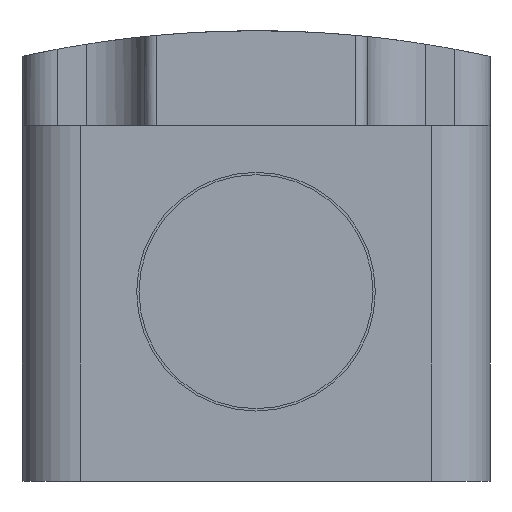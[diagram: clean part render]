
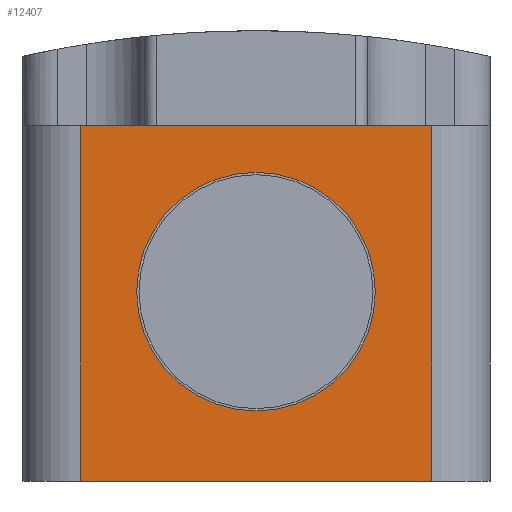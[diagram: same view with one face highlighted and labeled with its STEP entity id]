
A CAD part, front view. The second image highlights one B-rep face of the part: STEP entity #12407.
In plain terms, the highlighted planar face has unit normal (0, -1, 0).
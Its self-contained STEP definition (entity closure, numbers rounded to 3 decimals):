
#83 = VERTEX_POINT ( 'NONE', #11475 ) ;
#172 = DIRECTION ( 'NONE',  ( 1., 0., 0. ) ) ;
#478 = EDGE_LOOP ( 'NONE', ( #12904, #15962, #5092, #13762 ) ) ;
#803 = CARTESIAN_POINT ( 'NONE',  ( -15., -66., -16.2 ) ) ;
#837 = CIRCLE ( 'NONE', #5877, 10.2 ) ;
#925 = CARTESIAN_POINT ( 'NONE',  ( 15., -66., -16.2 ) ) ;
#1186 = CARTESIAN_POINT ( 'NONE',  ( 15., -66., -16.2 ) ) ;
#1334 = FACE_BOUND ( 'NONE', #9553, .T. ) ;
#1420 = DIRECTION ( 'NONE',  ( 0., 0., -1. ) ) ;
#1703 = CARTESIAN_POINT ( 'NONE',  ( 20., -66., -16.2 ) ) ;
#1844 = VERTEX_POINT ( 'NONE', #12417 ) ;
#2558 = CARTESIAN_POINT ( 'NONE',  ( -15., -66., -16.2 ) ) ;
#3337 = CARTESIAN_POINT ( 'NONE',  ( 20., -66., -16.2 ) ) ;
#3684 = VECTOR ( 'NONE', #13037, 1000. ) ;
#4086 = CARTESIAN_POINT ( 'NONE',  ( 0., -66., -10.2 ) ) ;
#4785 = VECTOR ( 'NONE', #14638, 1000. ) ;
#4896 = VERTEX_POINT ( 'NONE', #6439 ) ;
#4923 = CARTESIAN_POINT ( 'NONE',  ( 0., -66., 0. ) ) ;
#5019 = VERTEX_POINT ( 'NONE', #2558 ) ;
#5092 = ORIENTED_EDGE ( 'NONE', *, *, #13648, .F. ) ;
#5385 = DIRECTION ( 'NONE',  ( 0., 0., 1. ) ) ;
#5428 = LINE ( 'NONE', #16801, #16037 ) ;
#5877 = AXIS2_PLACEMENT_3D ( 'NONE', #4923, #14616, #6304 ) ;
#5902 = DIRECTION ( 'NONE',  ( 0., -1., 0. ) ) ;
#6304 = DIRECTION ( 'NONE',  ( 0., 0., -1. ) ) ;
#6439 = CARTESIAN_POINT ( 'NONE',  ( 0., -66., 10.2 ) ) ;
#7071 = ORIENTED_EDGE ( 'NONE', *, *, #13812, .F. ) ;
#8465 = EDGE_CURVE ( 'NONE', #5019, #13431, #11092, .T. ) ;
#9553 = EDGE_LOOP ( 'NONE', ( #7071, #11198 ) ) ;
#9751 = DIRECTION ( 'NONE',  ( 0., -1., 0. ) ) ;
#9906 = AXIS2_PLACEMENT_3D ( 'NONE', #18025, #9751, #1420 ) ;
#10870 = CIRCLE ( 'NONE', #9906, 10.2 ) ;
#11092 = LINE ( 'NONE', #3337, #3684 ) ;
#11198 = ORIENTED_EDGE ( 'NONE', *, *, #12828, .F. ) ;
#11475 = CARTESIAN_POINT ( 'NONE',  ( -15., -66., 14.2 ) ) ;
#11512 = VECTOR ( 'NONE', #5385, 1000. ) ;
#11609 = EDGE_CURVE ( 'NONE', #13431, #1844, #15245, .T. ) ;
#12407 = ADVANCED_FACE ( 'NONE', ( #1334, #15227 ), #16928, .T. ) ;
#12417 = CARTESIAN_POINT ( 'NONE',  ( 15., -66., 14.2 ) ) ;
#12616 = EDGE_CURVE ( 'NONE', #83, #5019, #15836, .T. ) ;
#12789 = VERTEX_POINT ( 'NONE', #4086 ) ;
#12828 = EDGE_CURVE ( 'NONE', #4896, #12789, #10870, .T. ) ;
#12904 = ORIENTED_EDGE ( 'NONE', *, *, #8465, .T. ) ;
#13037 = DIRECTION ( 'NONE',  ( 1., 0., 0. ) ) ;
#13431 = VERTEX_POINT ( 'NONE', #925 ) ;
#13648 = EDGE_CURVE ( 'NONE', #83, #1844, #5428, .T. ) ;
#13762 = ORIENTED_EDGE ( 'NONE', *, *, #12616, .T. ) ;
#13812 = EDGE_CURVE ( 'NONE', #12789, #4896, #837, .T. ) ;
#14616 = DIRECTION ( 'NONE',  ( 0., -1., 0. ) ) ;
#14638 = DIRECTION ( 'NONE',  ( 0., 0., -1. ) ) ;
#15227 = FACE_OUTER_BOUND ( 'NONE', #478, .T. ) ;
#15245 = LINE ( 'NONE', #1186, #11512 ) ;
#15590 = DIRECTION ( 'NONE',  ( 0., 0., -1. ) ) ;
#15783 = AXIS2_PLACEMENT_3D ( 'NONE', #1703, #5902, #15590 ) ;
#15836 = LINE ( 'NONE', #803, #4785 ) ;
#15962 = ORIENTED_EDGE ( 'NONE', *, *, #11609, .T. ) ;
#16037 = VECTOR ( 'NONE', #172, 1000. ) ;
#16801 = CARTESIAN_POINT ( 'NONE',  ( 20., -66., 14.2 ) ) ;
#16928 = PLANE ( 'NONE',  #15783 ) ;
#18025 = CARTESIAN_POINT ( 'NONE',  ( 0., -66., 0. ) ) ;
